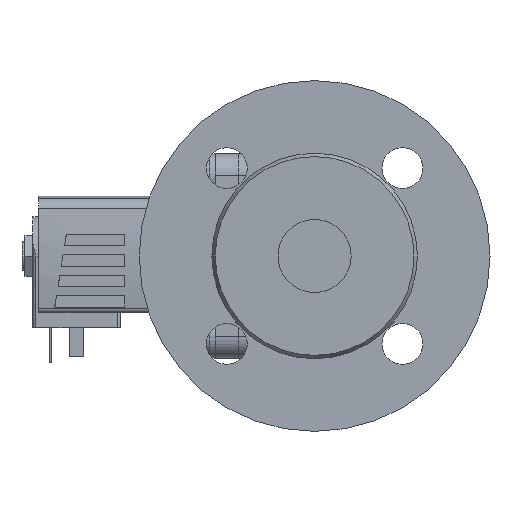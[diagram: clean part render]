
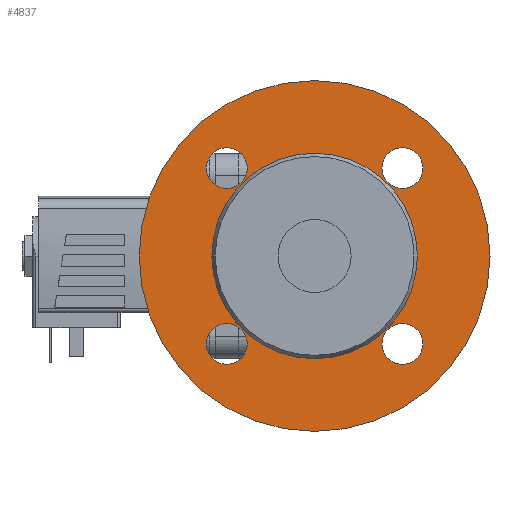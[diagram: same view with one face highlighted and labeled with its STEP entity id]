
A CAD part, left-side view. The second image highlights one B-rep face of the part: STEP entity #4837.
In plain terms, the highlighted planar face has unit normal (-1, 0, 0).
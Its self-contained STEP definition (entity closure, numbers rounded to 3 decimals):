
#876=PLANE('',#5890);
#1169=CIRCLE('',#5888,35.155);
#1171=CIRCLE('',#5891,60.);
#1172=CIRCLE('',#5892,7.);
#1173=CIRCLE('',#5893,7.);
#1174=CIRCLE('',#5894,7.);
#1175=CIRCLE('',#5895,7.);
#1755=ORIENTED_EDGE('',*,*,#2927,.T.);
#1756=ORIENTED_EDGE('',*,*,#2928,.T.);
#1757=ORIENTED_EDGE('',*,*,#2929,.T.);
#1758=ORIENTED_EDGE('',*,*,#2930,.T.);
#1759=ORIENTED_EDGE('',*,*,#2931,.T.);
#1760=ORIENTED_EDGE('',*,*,#2925,.F.);
#2925=EDGE_CURVE('',#3545,#3545,#1169,.T.);
#2927=EDGE_CURVE('',#3547,#3547,#1171,.T.);
#2928=EDGE_CURVE('',#3548,#3548,#1172,.F.);
#2929=EDGE_CURVE('',#3549,#3549,#1173,.F.);
#2930=EDGE_CURVE('',#3550,#3550,#1174,.F.);
#2931=EDGE_CURVE('',#3551,#3551,#1175,.F.);
#3545=VERTEX_POINT('',#8347);
#3547=VERTEX_POINT('',#8352);
#3548=VERTEX_POINT('',#8354);
#3549=VERTEX_POINT('',#8356);
#3550=VERTEX_POINT('',#8358);
#3551=VERTEX_POINT('',#8360);
#4029=EDGE_LOOP('',(#1755));
#4030=EDGE_LOOP('',(#1756));
#4031=EDGE_LOOP('',(#1757));
#4032=EDGE_LOOP('',(#1758));
#4033=EDGE_LOOP('',(#1759));
#4034=EDGE_LOOP('',(#1760));
#4433=FACE_BOUND('',#4029,.T.);
#4434=FACE_BOUND('',#4030,.T.);
#4435=FACE_BOUND('',#4031,.T.);
#4436=FACE_BOUND('',#4032,.T.);
#4437=FACE_BOUND('',#4033,.T.);
#4438=FACE_BOUND('',#4034,.T.);
#4837=ADVANCED_FACE('',(#4433,#4434,#4435,#4436,#4437,#4438),#876,.T.);
#5888=AXIS2_PLACEMENT_3D('',#8346,#6685,#6686);
#5890=AXIS2_PLACEMENT_3D('',#8350,#6689,#6690);
#5891=AXIS2_PLACEMENT_3D('',#8351,#6691,#6692);
#5892=AXIS2_PLACEMENT_3D('',#8353,#6693,#6694);
#5893=AXIS2_PLACEMENT_3D('',#8355,#6695,#6696);
#5894=AXIS2_PLACEMENT_3D('',#8357,#6697,#6698);
#5895=AXIS2_PLACEMENT_3D('',#8359,#6699,#6700);
#6685=DIRECTION('',(-1.,0.,0.));
#6686=DIRECTION('',(0.,0.,1.));
#6689=DIRECTION('',(-1.,0.,0.));
#6690=DIRECTION('',(0.,0.,1.));
#6691=DIRECTION('',(-1.,0.,0.));
#6692=DIRECTION('',(0.,0.,1.));
#6693=DIRECTION('',(-1.,0.,0.));
#6694=DIRECTION('',(0.,0.,1.));
#6695=DIRECTION('',(-1.,0.,0.));
#6696=DIRECTION('',(0.,0.,1.));
#6697=DIRECTION('',(-1.,0.,0.));
#6698=DIRECTION('',(0.,0.,1.));
#6699=DIRECTION('',(-1.,0.,0.));
#6700=DIRECTION('',(0.,0.,1.));
#8346=CARTESIAN_POINT('',(-78.,0.,0.));
#8347=CARTESIAN_POINT('',(-78.,0.,35.155));
#8350=CARTESIAN_POINT('',(-78.,-35.155,0.));
#8351=CARTESIAN_POINT('',(-78.,0.,0.));
#8352=CARTESIAN_POINT('',(-78.,0.,60.));
#8353=CARTESIAN_POINT('',(-78.,30.052,30.052));
#8354=CARTESIAN_POINT('',(-78.,30.052,37.052));
#8355=CARTESIAN_POINT('',(-78.,30.052,-30.052));
#8356=CARTESIAN_POINT('',(-78.,30.052,-23.052));
#8357=CARTESIAN_POINT('',(-78.,-30.052,-30.052));
#8358=CARTESIAN_POINT('',(-78.,-30.052,-23.052));
#8359=CARTESIAN_POINT('',(-78.,-30.052,30.052));
#8360=CARTESIAN_POINT('',(-78.,-30.052,37.052));
